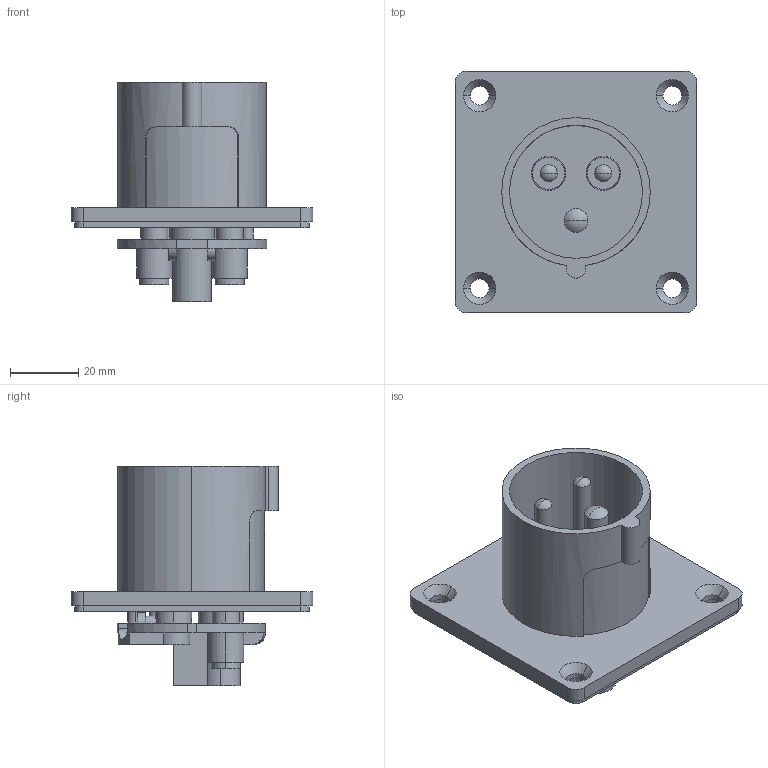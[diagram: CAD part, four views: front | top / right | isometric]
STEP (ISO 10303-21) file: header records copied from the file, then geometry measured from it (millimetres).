
FILE_DESCRIPTION (( 'STEP AP203' ), '1' );
FILE_NAME ('TLL16432.STEP', '2018-04-05T20:57:55', ( '' ), ( '' ), 'SwSTEP 2.0', 'SolidWorks 2012', '' );
FILE_SCHEMA (( 'CONFIG_CONTROL_DESIGN' ));
Length unit declared in the file: millimetre
Products named in the file (1): TLL16432
Bounding box: 70.7 x 70.7 x 64.3 mm (x, y, z)
Volume: 42184.7 mm3; surface area: 33432.2 mm2
Topology: 1 solids, 1 shells, 301 faces, 746 edges, 487 vertices
Faces by surface type: plane 149, cylinder 124, cone 18, sphere 6, bspline 2, torus 2
Entity records: 10182 total; most frequent: CARTESIAN_POINT 2687, DIRECTION 1599, ORIENTED_EDGE 1492, EDGE_CURVE 746, AXIS2_PLACEMENT_3D 583, VERTEX_POINT 487, VECTOR 433, LINE 433
